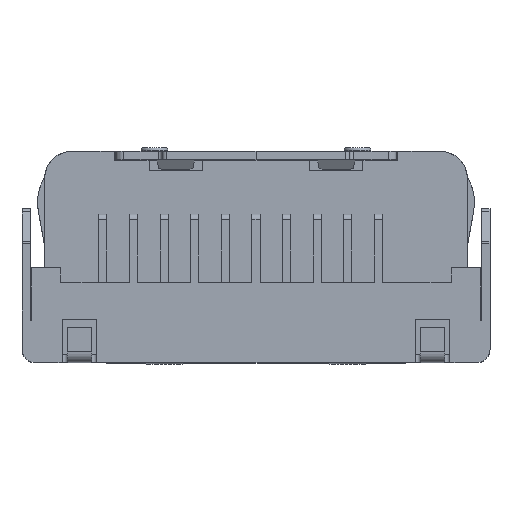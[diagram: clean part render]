
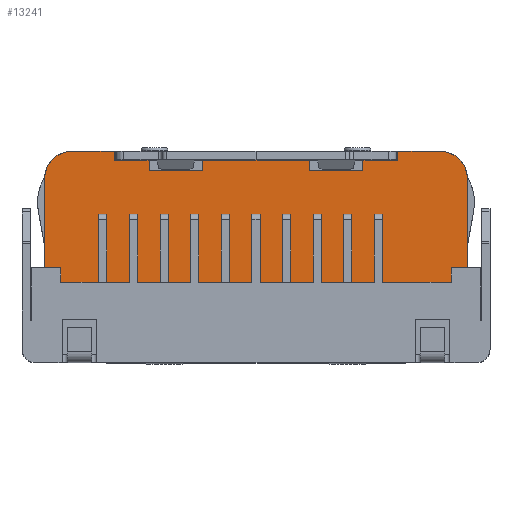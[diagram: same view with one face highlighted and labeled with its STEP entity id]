
A CAD part, top view. The second image highlights one B-rep face of the part: STEP entity #13241.
In plain terms, the highlighted planar face has unit normal (0, 0, 1).
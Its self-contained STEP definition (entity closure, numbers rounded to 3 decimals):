
#1817=DIRECTION('',(1.,0.,0.));
#1818=VECTOR('',#1817,14.6);
#1819=CARTESIAN_POINT('',(-6.717,-4.9,2.924));
#1820=LINE('',#1819,#1818);
#3605=DIRECTION('',(0.,1.,0.));
#3606=VECTOR('',#3605,0.55);
#3607=CARTESIAN_POINT('',(-6.717,-4.9,2.924));
#3608=LINE('',#3607,#3606);
#3609=DIRECTION('',(-1.,0.,0.));
#3610=VECTOR('',#3609,0.6);
#3611=CARTESIAN_POINT('',(-6.717,-4.35,2.924));
#3612=LINE('',#3611,#3610);
#3613=DIRECTION('',(0.,1.,0.));
#3614=VECTOR('',#3613,3.35);
#3615=CARTESIAN_POINT('',(-7.317,-4.35,2.924));
#3616=LINE('',#3615,#3614);
#3617=CARTESIAN_POINT('',(-6.317,-1.,2.924));
#3618=DIRECTION('',(0.,0.,-1.));
#3619=DIRECTION('',(-1.,0.,0.));
#3620=AXIS2_PLACEMENT_3D('',#3617,#3618,#3619);
#3622=DIRECTION('',(1.,0.,0.));
#3623=VECTOR('',#3622,1.6);
#3624=CARTESIAN_POINT('',(-6.317,0.,2.924));
#3625=LINE('',#3624,#3623);
#3626=DIRECTION('',(0.,-1.,0.));
#3627=VECTOR('',#3626,0.325);
#3628=CARTESIAN_POINT('',(-4.717,0.,2.924));
#3629=LINE('',#3628,#3627);
#3630=DIRECTION('',(1.,0.,0.));
#3631=VECTOR('',#3630,1.3);
#3632=CARTESIAN_POINT('',(-4.717,-0.325,2.924));
#3633=LINE('',#3632,#3631);
#3634=DIRECTION('',(0.,-1.,0.));
#3635=VECTOR('',#3634,0.4);
#3636=CARTESIAN_POINT('',(-3.417,-0.325,2.924));
#3637=LINE('',#3636,#3635);
#3638=DIRECTION('',(1.,0.,0.));
#3639=VECTOR('',#3638,2.);
#3640=CARTESIAN_POINT('',(-3.417,-0.725,2.924));
#3641=LINE('',#3640,#3639);
#3642=DIRECTION('',(0.,1.,0.));
#3643=VECTOR('',#3642,0.4);
#3644=CARTESIAN_POINT('',(-1.417,-0.725,2.924));
#3645=LINE('',#3644,#3643);
#3646=DIRECTION('',(1.,0.,0.));
#3647=VECTOR('',#3646,4.);
#3648=CARTESIAN_POINT('',(-1.417,-0.325,2.924));
#3649=LINE('',#3648,#3647);
#3650=DIRECTION('',(0.,-1.,0.));
#3651=VECTOR('',#3650,0.4);
#3652=CARTESIAN_POINT('',(2.583,-0.325,2.924));
#3653=LINE('',#3652,#3651);
#3654=DIRECTION('',(1.,0.,0.));
#3655=VECTOR('',#3654,2.);
#3656=CARTESIAN_POINT('',(2.583,-0.725,2.924));
#3657=LINE('',#3656,#3655);
#3658=DIRECTION('',(0.,1.,0.));
#3659=VECTOR('',#3658,0.4);
#3660=CARTESIAN_POINT('',(4.583,-0.725,2.924));
#3661=LINE('',#3660,#3659);
#3662=DIRECTION('',(1.,0.,0.));
#3663=VECTOR('',#3662,1.3);
#3664=CARTESIAN_POINT('',(4.583,-0.325,2.924));
#3665=LINE('',#3664,#3663);
#3666=DIRECTION('',(0.,1.,0.));
#3667=VECTOR('',#3666,0.325);
#3668=CARTESIAN_POINT('',(5.883,-0.325,2.924));
#3669=LINE('',#3668,#3667);
#3670=DIRECTION('',(1.,0.,0.));
#3671=VECTOR('',#3670,1.6);
#3672=CARTESIAN_POINT('',(5.883,0.,2.924));
#3673=LINE('',#3672,#3671);
#3674=CARTESIAN_POINT('',(7.483,-1.,2.924));
#3675=DIRECTION('',(0.,0.,-1.));
#3676=DIRECTION('',(0.,1.,0.));
#3677=AXIS2_PLACEMENT_3D('',#3674,#3675,#3676);
#3679=DIRECTION('',(0.,-1.,0.));
#3680=VECTOR('',#3679,3.35);
#3681=CARTESIAN_POINT('',(8.483,-1.,2.924));
#3682=LINE('',#3681,#3680);
#3683=DIRECTION('',(-1.,0.,0.));
#3684=VECTOR('',#3683,0.6);
#3685=CARTESIAN_POINT('',(8.483,-4.35,2.924));
#3686=LINE('',#3685,#3684);
#3687=DIRECTION('',(0.,-1.,0.));
#3688=VECTOR('',#3687,0.55);
#3689=CARTESIAN_POINT('',(7.883,-4.35,2.924));
#3690=LINE('',#3689,#3688);
#8516=CARTESIAN_POINT('',(-4.717,0.,2.924));
#8518=VERTEX_POINT('',#8516);
#8522=CARTESIAN_POINT('',(-6.317,0.,2.924));
#8523=VERTEX_POINT('',#8522);
#8554=CARTESIAN_POINT('',(5.883,0.,2.924));
#8555=VERTEX_POINT('',#8554);
#8556=CARTESIAN_POINT('',(7.483,0.,2.924));
#8557=VERTEX_POINT('',#8556);
#8564=CARTESIAN_POINT('',(-7.317,-1.,2.924));
#8565=VERTEX_POINT('',#8564);
#8566=CARTESIAN_POINT('',(-1.417,-0.725,2.924));
#8567=CARTESIAN_POINT('',(-1.417,-0.325,2.924));
#8568=VERTEX_POINT('',#8566);
#8569=VERTEX_POINT('',#8567);
#8578=CARTESIAN_POINT('',(-3.417,-0.325,2.924));
#8579=CARTESIAN_POINT('',(-3.417,-0.725,2.924));
#8580=VERTEX_POINT('',#8578);
#8581=VERTEX_POINT('',#8579);
#8584=CARTESIAN_POINT('',(2.583,-0.325,2.924));
#8585=CARTESIAN_POINT('',(2.583,-0.725,2.924));
#8586=VERTEX_POINT('',#8584);
#8587=VERTEX_POINT('',#8585);
#8596=CARTESIAN_POINT('',(4.583,-0.725,2.924));
#8597=CARTESIAN_POINT('',(4.583,-0.325,2.924));
#8598=VERTEX_POINT('',#8596);
#8599=VERTEX_POINT('',#8597);
#8604=CARTESIAN_POINT('',(8.483,-1.,2.924));
#8605=VERTEX_POINT('',#8604);
#8686=CARTESIAN_POINT('',(-4.717,-0.325,2.924));
#8687=VERTEX_POINT('',#8686);
#8688=CARTESIAN_POINT('',(5.883,-0.325,2.924));
#8689=VERTEX_POINT('',#8688);
#8770=CARTESIAN_POINT('',(-6.717,-4.9,2.924));
#8771=CARTESIAN_POINT('',(7.883,-4.9,2.924));
#8772=VERTEX_POINT('',#8770);
#8773=VERTEX_POINT('',#8771);
#9102=CARTESIAN_POINT('',(8.483,-4.35,2.924));
#9103=VERTEX_POINT('',#9102);
#9104=CARTESIAN_POINT('',(7.883,-4.35,2.924));
#9105=VERTEX_POINT('',#9104);
#9106=CARTESIAN_POINT('',(-6.717,-4.35,2.924));
#9107=CARTESIAN_POINT('',(-7.317,-4.35,2.924));
#9108=VERTEX_POINT('',#9106);
#9109=VERTEX_POINT('',#9107);
#13194=CARTESIAN_POINT('',(0.583,-2.45,2.924));
#13195=DIRECTION('',(0.,0.,1.));
#13196=DIRECTION('',(1.,0.,0.));
#13197=AXIS2_PLACEMENT_3D('',#13194,#13195,#13196);
#13198=PLANE('',#13197);
#13199=ORIENTED_EDGE('',*,*,#11570,.T.);
#13200=ORIENTED_EDGE('',*,*,#11590,.T.);
#13201=ORIENTED_EDGE('',*,*,#13183,.T.);
#13203=ORIENTED_EDGE('',*,*,#13202,.T.);
#13205=ORIENTED_EDGE('',*,*,#13204,.T.);
#13207=ORIENTED_EDGE('',*,*,#13206,.T.);
#13209=ORIENTED_EDGE('',*,*,#13208,.T.);
#13211=ORIENTED_EDGE('',*,*,#13210,.T.);
#13213=ORIENTED_EDGE('',*,*,#13212,.T.);
#13215=ORIENTED_EDGE('',*,*,#13214,.T.);
#13217=ORIENTED_EDGE('',*,*,#13216,.T.);
#13219=ORIENTED_EDGE('',*,*,#13218,.T.);
#13221=ORIENTED_EDGE('',*,*,#13220,.T.);
#13223=ORIENTED_EDGE('',*,*,#13222,.T.);
#13225=ORIENTED_EDGE('',*,*,#13224,.T.);
#13227=ORIENTED_EDGE('',*,*,#13226,.T.);
#13229=ORIENTED_EDGE('',*,*,#13228,.T.);
#13231=ORIENTED_EDGE('',*,*,#13230,.T.);
#13233=ORIENTED_EDGE('',*,*,#13232,.T.);
#13235=ORIENTED_EDGE('',*,*,#13234,.T.);
#13237=ORIENTED_EDGE('',*,*,#13236,.T.);
#13238=ORIENTED_EDGE('',*,*,#10523,.F.);
#13239=EDGE_LOOP('',(#13199,#13200,#13201,#13203,#13205,#13207,#13209,#13211,
#13213,#13215,#13217,#13219,#13221,#13223,#13225,#13227,#13229,#13231,#13233,
#13235,#13237,#13238));
#13240=FACE_OUTER_BOUND('',#13239,.F.);
#3621=CIRCLE('',#3620,1.);
#3678=CIRCLE('',#3677,1.);
#10523=EDGE_CURVE('',#8772,#8773,#1820,.T.);
#11570=EDGE_CURVE('',#8772,#9108,#3608,.T.);
#11590=EDGE_CURVE('',#9108,#9109,#3612,.T.);
#13183=EDGE_CURVE('',#9109,#8565,#3616,.T.);
#13202=EDGE_CURVE('',#8565,#8523,#3621,.T.);
#13204=EDGE_CURVE('',#8523,#8518,#3625,.T.);
#13206=EDGE_CURVE('',#8518,#8687,#3629,.T.);
#13208=EDGE_CURVE('',#8687,#8580,#3633,.T.);
#13210=EDGE_CURVE('',#8580,#8581,#3637,.T.);
#13212=EDGE_CURVE('',#8581,#8568,#3641,.T.);
#13214=EDGE_CURVE('',#8568,#8569,#3645,.T.);
#13216=EDGE_CURVE('',#8569,#8586,#3649,.T.);
#13218=EDGE_CURVE('',#8586,#8587,#3653,.T.);
#13220=EDGE_CURVE('',#8587,#8598,#3657,.T.);
#13222=EDGE_CURVE('',#8598,#8599,#3661,.T.);
#13224=EDGE_CURVE('',#8599,#8689,#3665,.T.);
#13226=EDGE_CURVE('',#8689,#8555,#3669,.T.);
#13228=EDGE_CURVE('',#8555,#8557,#3673,.T.);
#13230=EDGE_CURVE('',#8557,#8605,#3678,.T.);
#13232=EDGE_CURVE('',#8605,#9103,#3682,.T.);
#13234=EDGE_CURVE('',#9103,#9105,#3686,.T.);
#13236=EDGE_CURVE('',#9105,#8773,#3690,.T.);
#13241=ADVANCED_FACE('',(#13240),#13198,.T.);
